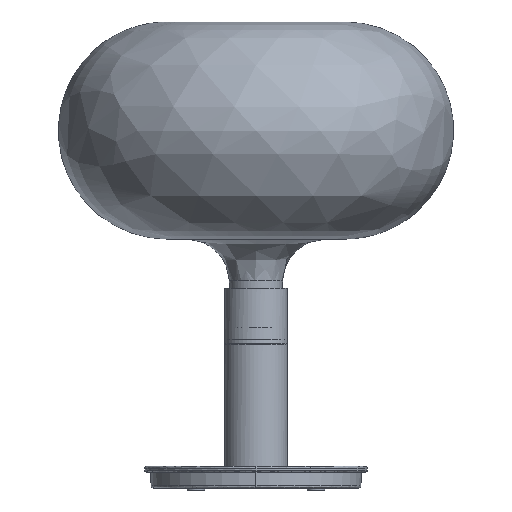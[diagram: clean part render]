
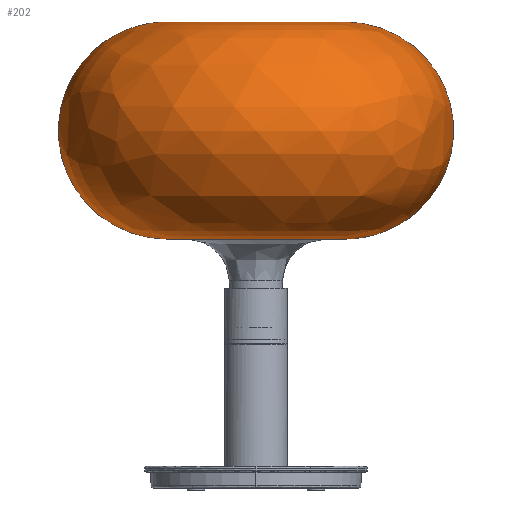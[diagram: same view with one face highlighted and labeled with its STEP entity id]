
A CAD part, front view. The second image highlights one B-rep face of the part: STEP entity #202.
In plain terms, the highlighted free-form (B-spline) face has degree [3, 3] with [4, 4] control points.
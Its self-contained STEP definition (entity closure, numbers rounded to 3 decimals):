
#202=ADVANCED_FACE('',(#399),#2788,.T.);
#399=FACE_OUTER_BOUND('',#602,.T.);
#602=EDGE_LOOP('',(#878,#879,#880,#881));
#878=ORIENTED_EDGE('',*,*,#1679,.F.);
#879=ORIENTED_EDGE('',*,*,#1680,.T.);
#880=ORIENTED_EDGE('',*,*,#1678,.F.);
#881=ORIENTED_EDGE('',*,*,#1681,.T.);
#1678=EDGE_CURVE('',#2496,#2494,#2077,.T.);
#1679=EDGE_CURVE('',#2495,#2497,#2078,.T.);
#1680=EDGE_CURVE('',#2495,#2494,#2079,.T.);
#1681=EDGE_CURVE('',#2496,#2497,#2080,.T.);
#2077=(
BOUNDED_CURVE()
B_SPLINE_CURVE(3,(#4028,#4029,#4030,#4031),.UNSPECIFIED.,.F.,.F.)
B_SPLINE_CURVE_WITH_KNOTS((4,4),(0.,1225.758),.UNSPECIFIED.)
CURVE()
GEOMETRIC_REPRESENTATION_ITEM()
RATIONAL_B_SPLINE_CURVE((1.,0.333,0.333,1.))
REPRESENTATION_ITEM('')
);
#2078=(
BOUNDED_CURVE()
B_SPLINE_CURVE(3,(#4032,#4033,#4034,#4035),.UNSPECIFIED.,.F.,.F.)
B_SPLINE_CURVE_WITH_KNOTS((4,4),(-1225.758,0.),.UNSPECIFIED.)
CURVE()
GEOMETRIC_REPRESENTATION_ITEM()
RATIONAL_B_SPLINE_CURVE((1.,0.333,0.333,1.))
REPRESENTATION_ITEM('')
);
#2079=(
BOUNDED_CURVE()
B_SPLINE_CURVE(3,(#4036,#4037,#4038,#4039),.UNSPECIFIED.,.F.,.F.)
B_SPLINE_CURVE_WITH_KNOTS((4,4),(0.,1896.),.UNSPECIFIED.)
CURVE()
GEOMETRIC_REPRESENTATION_ITEM()
RATIONAL_B_SPLINE_CURVE((1.,0.333,0.333,1.))
REPRESENTATION_ITEM('')
);
#2080=(
BOUNDED_CURVE()
B_SPLINE_CURVE(3,(#4040,#4041,#4042,#4043),.UNSPECIFIED.,.F.,.F.)
B_SPLINE_CURVE_WITH_KNOTS((4,4),(-1896.,0.),.UNSPECIFIED.)
CURVE()
GEOMETRIC_REPRESENTATION_ITEM()
RATIONAL_B_SPLINE_CURVE((1.,0.333,0.333,1.))
REPRESENTATION_ITEM('')
);
#2494=VERTEX_POINT('',#3589);
#2495=VERTEX_POINT('',#3590);
#2496=VERTEX_POINT('',#3591);
#2497=VERTEX_POINT('',#3592);
#2788=(
BOUNDED_SURFACE()
B_SPLINE_SURFACE(3,3,((#3353,#3354,#3355,#3356),(#3357,#3358,#3359,#3360),
(#3361,#3362,#3363,#3364),(#3365,#3366,#3367,#3368)),.UNSPECIFIED.,.F.,
 .F.,.F.)
B_SPLINE_SURFACE_WITH_KNOTS((4,4),(4,4),(0.,1225.758),(0.,1896.),
 .UNSPECIFIED.)
GEOMETRIC_REPRESENTATION_ITEM()
RATIONAL_B_SPLINE_SURFACE(((1.,0.333,0.333,1.),
(0.333,0.111,0.111,0.333),
(0.333,0.111,0.111,0.333),
(1.,0.333,0.333,1.)))
REPRESENTATION_ITEM('')
SURFACE()
);
#3353=CARTESIAN_POINT('',(-92.,0.,458.5));
#3354=CARTESIAN_POINT('',(-92.,-184.,458.5));
#3355=CARTESIAN_POINT('',(92.,-184.,458.5));
#3356=CARTESIAN_POINT('',(92.,0.,458.5));
#3357=CARTESIAN_POINT('',(-316.,0.,458.5));
#3358=CARTESIAN_POINT('',(-316.,-632.,458.5));
#3359=CARTESIAN_POINT('',(316.,-632.,458.5));
#3360=CARTESIAN_POINT('',(316.,0.,458.5));
#3361=CARTESIAN_POINT('',(-316.,0.,234.5));
#3362=CARTESIAN_POINT('',(-316.,-632.,234.5));
#3363=CARTESIAN_POINT('',(316.,-632.,234.5));
#3364=CARTESIAN_POINT('',(316.,0.,234.5));
#3365=CARTESIAN_POINT('',(-92.,0.,234.5));
#3366=CARTESIAN_POINT('',(-92.,-184.,234.5));
#3367=CARTESIAN_POINT('',(92.,-184.,234.5));
#3368=CARTESIAN_POINT('',(92.,0.,234.5));
#3589=CARTESIAN_POINT('',(92.,0.,234.5));
#3590=CARTESIAN_POINT('',(-92.,0.,234.5));
#3591=CARTESIAN_POINT('',(92.,0.,458.5));
#3592=CARTESIAN_POINT('',(-92.,0.,458.5));
#4028=CARTESIAN_POINT('',(92.,0.,458.5));
#4029=CARTESIAN_POINT('',(316.,0.,458.5));
#4030=CARTESIAN_POINT('',(316.,0.,234.5));
#4031=CARTESIAN_POINT('',(92.,0.,234.5));
#4032=CARTESIAN_POINT('',(-92.,0.,234.5));
#4033=CARTESIAN_POINT('',(-316.,0.,234.5));
#4034=CARTESIAN_POINT('',(-316.,0.,458.5));
#4035=CARTESIAN_POINT('',(-92.,0.,458.5));
#4036=CARTESIAN_POINT('',(-92.,0.,234.5));
#4037=CARTESIAN_POINT('',(-92.,-184.,234.5));
#4038=CARTESIAN_POINT('',(92.,-184.,234.5));
#4039=CARTESIAN_POINT('',(92.,0.,234.5));
#4040=CARTESIAN_POINT('',(92.,0.,458.5));
#4041=CARTESIAN_POINT('',(92.,-184.,458.5));
#4042=CARTESIAN_POINT('',(-92.,-184.,458.5));
#4043=CARTESIAN_POINT('',(-92.,0.,458.5));
